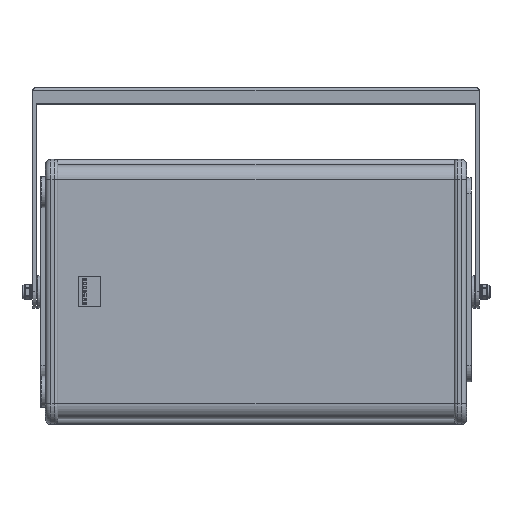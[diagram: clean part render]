
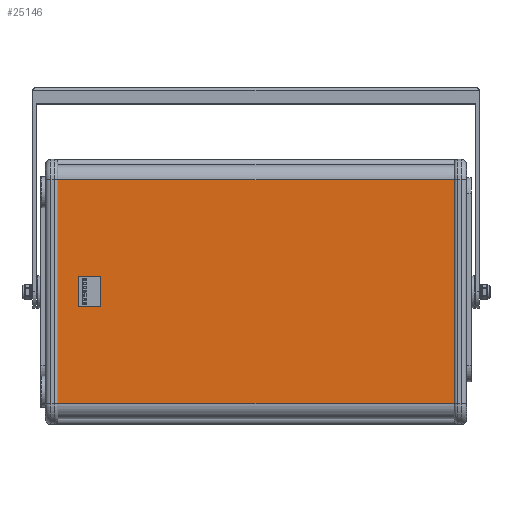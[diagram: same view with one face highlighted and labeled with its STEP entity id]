
A CAD part, top view. The second image highlights one B-rep face of the part: STEP entity #25146.
In plain terms, the highlighted planar face has unit normal (0, 0, 1) as drawn and (0, -1, 0) by its records, which use the part's own axes.
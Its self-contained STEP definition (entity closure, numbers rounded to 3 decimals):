
#9968 = CARTESIAN_POINT ( 'NONE',  ( 485., 6.5, -25. ) ) ;
#9970 = DIRECTION ( 'NONE',  ( 0., 0., -1. ) ) ;
#9971 = VECTOR ( 'NONE', #9970, 1000. ) ;
#9972 = CARTESIAN_POINT ( 'NONE',  ( 485., 6.5, -25. ) ) ;
#9973 = LINE ( 'NONE', #9972, #9971 ) ;
#9974 = CARTESIAN_POINT ( 'NONE',  ( 485., 6.429, -299. ) ) ;
#9975 = DIRECTION ( 'NONE',  ( -1., 0., 0. ) ) ;
#9976 = VECTOR ( 'NONE', #9975, 1000. ) ;
#9977 = CARTESIAN_POINT ( 'NONE',  ( 0., 6.429, -299. ) ) ;
#9983 = LINE ( 'NONE', #9977, #9976 ) ;
#10086 = CARTESIAN_POINT ( 'NONE',  ( 0., 6.429, -299. ) ) ;
#10087 = CARTESIAN_POINT ( 'NONE',  ( 0., 6.5, -25. ) ) ;
#10090 = DIRECTION ( 'NONE',  ( 0., 0., -1. ) ) ;
#10091 = VECTOR ( 'NONE', #10090, 1000. ) ;
#10092 = CARTESIAN_POINT ( 'NONE',  ( 0., 6.5, -25. ) ) ;
#10093 = LINE ( 'NONE', #10092, #10091 ) ;
#10124 = DIRECTION ( 'NONE',  ( 0., 0., -1. ) ) ;
#10125 = DIRECTION ( 'NONE',  ( 0., -1., 0. ) ) ;
#10126 = CARTESIAN_POINT ( 'NONE',  ( 0., 6.429, -299. ) ) ;
#10127 = AXIS2_PLACEMENT_3D ( 'NONE', #10126, #10125, #10124 ) ;
#10128 = PLANE ( 'NONE',  #10127 ) ;
#10133 = FACE_OUTER_BOUND ( 'NONE', #25281, .T. ) ;
#23447 = DIRECTION ( 'NONE',  ( 1., 0., 0. ) ) ;
#23448 = VECTOR ( 'NONE', #23447, 1000. ) ;
#23449 = CARTESIAN_POINT ( 'NONE',  ( 0., 6.5, -25. ) ) ;
#23450 = LINE ( 'NONE', #23449, #23448 ) ;
#24122 = ORIENTED_EDGE ( 'NONE', *, *, #34253, .F. ) ;
#24252 = EDGE_CURVE ( 'NONE', #24265, #24709, #9983, .T. ) ;
#24265 = VERTEX_POINT ( 'NONE', #9974 ) ;
#24273 = ORIENTED_EDGE ( 'NONE', *, *, #24288, .F. ) ;
#24288 = EDGE_CURVE ( 'NONE', #24349, #24265, #9973, .T. ) ;
#24349 = VERTEX_POINT ( 'NONE', #9968 ) ;
#24433 = ORIENTED_EDGE ( 'NONE', *, *, #24252, .F. ) ;
#24611 = EDGE_CURVE ( 'NONE', #24630, #24709, #10093, .T. ) ;
#24630 = VERTEX_POINT ( 'NONE', #10087 ) ;
#24709 = VERTEX_POINT ( 'NONE', #10086 ) ;
#25146 = ADVANCED_FACE ( 'NONE', ( #10133 ), #10128, .T. ) ;
#25281 = EDGE_LOOP ( 'NONE', ( #25288, #24433, #24273, #24122 ) ) ;
#25288 = ORIENTED_EDGE ( 'NONE', *, *, #24611, .T. ) ;
#34253 = EDGE_CURVE ( 'NONE', #24630, #24349, #23450, .T. ) ;
